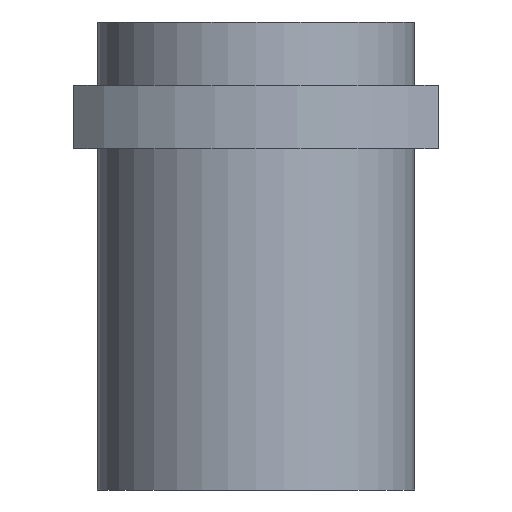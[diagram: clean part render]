
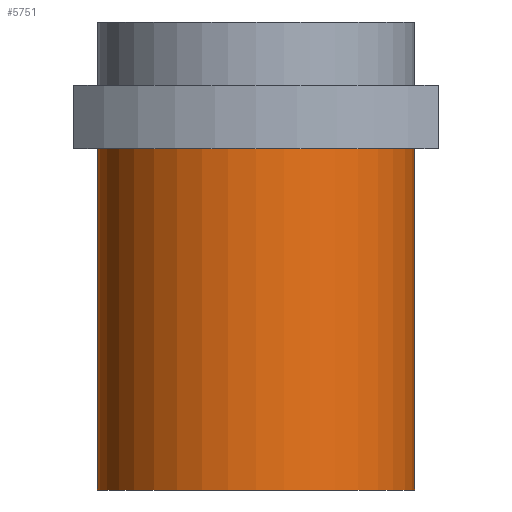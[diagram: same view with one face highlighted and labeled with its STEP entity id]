
A CAD part, left-side view. The second image highlights one B-rep face of the part: STEP entity #5751.
In plain terms, the highlighted cylindrical face has radius 20 mm (diameter 40 mm), a full revolution.
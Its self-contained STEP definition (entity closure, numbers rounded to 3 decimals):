
#83=CYLINDRICAL_SURFACE('',#6124,20.);
#111=CIRCLE('',#6111,20.);
#120=CIRCLE('',#6125,20.);
#1767=ORIENTED_EDGE('',*,*,#3425,.T.);
#1768=ORIENTED_EDGE('',*,*,#3414,.T.);
#3414=EDGE_CURVE('',#4243,#4243,#111,.F.);
#3425=EDGE_CURVE('',#4252,#4252,#120,.T.);
#4243=VERTEX_POINT('',#9125);
#4252=VERTEX_POINT('',#9150);
#4721=EDGE_LOOP('',(#1767));
#4722=EDGE_LOOP('',(#1768));
#5132=FACE_BOUND('',#4721,.T.);
#5133=FACE_BOUND('',#4722,.T.);
#5751=ADVANCED_FACE('',(#5132,#5133),#83,.T.);
#6111=AXIS2_PLACEMENT_3D('',#9124,#6640,#6641);
#6124=AXIS2_PLACEMENT_3D('',#9148,#6668,#6669);
#6125=AXIS2_PLACEMENT_3D('',#9149,#6670,#6671);
#6640=DIRECTION('',(0.,0.,1.));
#6641=DIRECTION('',(0.,1.,0.));
#6668=DIRECTION('',(0.,0.,1.));
#6669=DIRECTION('',(0.,1.,0.));
#6670=DIRECTION('',(0.,0.,1.));
#6671=DIRECTION('',(0.,1.,0.));
#9124=CARTESIAN_POINT('',(0.,0.,-8.));
#9125=CARTESIAN_POINT('',(0.,20.,-8.));
#9148=CARTESIAN_POINT('',(0.,0.,-51.));
#9149=CARTESIAN_POINT('',(0.,0.,-51.));
#9150=CARTESIAN_POINT('',(0.,20.,-51.));
